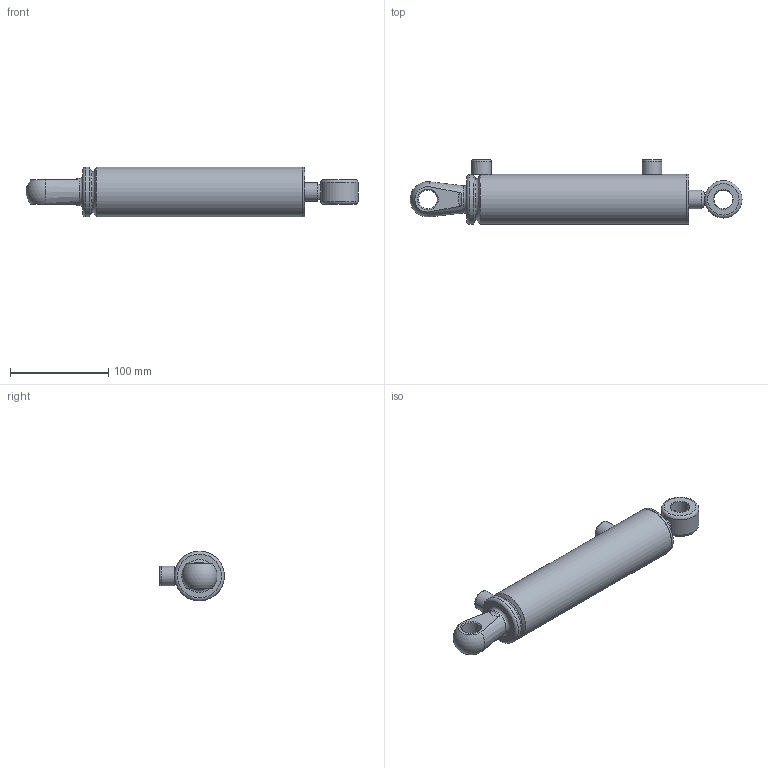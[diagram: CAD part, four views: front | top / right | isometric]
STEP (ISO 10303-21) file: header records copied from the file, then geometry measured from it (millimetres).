
FILE_DESCRIPTION(/* description */ ('Alibre Inc.'),/* implementation_level */ '2;1');
FILE_NAME(/* name */ 'export0',/* time_stamp */ '2016-08-16T09:45:18+12:00',/* author */ (''),/* organization */ (''),/* preprocessor_version */ 'ST-DEVELOPER v14',/* originating_system */ 'Alibre',/* authorisation */ '');
FILE_SCHEMA (('AUTOMOTIVE_DESIGN'));
Length unit declared in the file: centimetre
Bounding box: 338.28 x 65.8 x 50.8 mm (x, y, z)
Volume: 370323.2 mm3; surface area: 116115.3 mm2
Topology: 11 solids, 11 shells, 109 faces, 207 edges, 128 vertices
Faces by surface type: cylinder 38, plane 37, cone 21, torus 10, bspline 2, sphere 1
Full cylindrical faces by diameter (mm): 3 x2, 5.588 x1, 11.9 x2, 14.33 x2, 19.05 x3, 19.1 x2, 19.6 x1, 20 x2, 22.86 x1, 25.42 x1, 25.705 x1, 25.9 x1, 31.85 x1, 31.92 x1, 33.884 x1, 35.56 x1, 37.44 x3, 38 x3, 38.1 x2, 41.148 x1, 41.275 x2, 43.646 x1, 50.8 x3
Entity records: 3066 total; most frequent: CARTESIAN_POINT 989, DIRECTION 393, ORIENTED_EDGE 234, AXIS2_PLACEMENT_3D 218, EDGE_LOOP 204, FACE_BOUND 204, EDGE_CURVE 117, VERTEX_POINT 113
